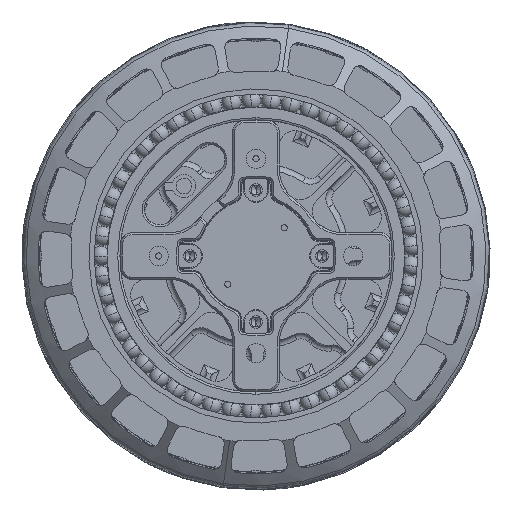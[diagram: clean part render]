
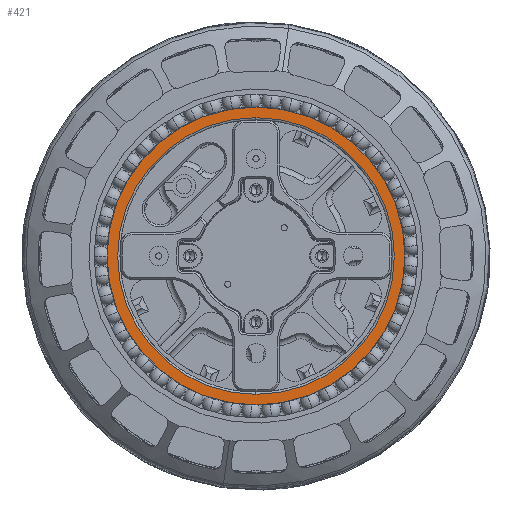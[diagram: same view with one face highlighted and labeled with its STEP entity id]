
A CAD part, left-side view. The second image highlights one B-rep face of the part: STEP entity #421.
In plain terms, the highlighted planar face has unit normal (-1, 0, 0).
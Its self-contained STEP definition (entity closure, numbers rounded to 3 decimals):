
#421 = ADVANCED_FACE ( 'NONE', ( #5302, #84231 ), #126060, .F. ) ;
#746 = EDGE_LOOP ( 'NONE', ( #85955, #77568 ) ) ;
#1106 = DIRECTION ( 'NONE',  ( -1., 0., 0. ) ) ;
#1508 = EDGE_LOOP ( 'NONE', ( #94741, #88745 ) ) ;
#3431 = DIRECTION ( 'NONE',  ( 0., 0., -1. ) ) ;
#5302 = FACE_BOUND ( 'NONE', #1508, .T. ) ;
#11206 = DIRECTION ( 'NONE',  ( 0., 0., 1. ) ) ;
#16351 = EDGE_CURVE ( 'NONE', #24419, #111868, #120298, .T. ) ;
#24419 = VERTEX_POINT ( 'NONE', #48345 ) ;
#25211 = DIRECTION ( 'NONE',  ( -1., 0., 0. ) ) ;
#38015 = VERTEX_POINT ( 'NONE', #120356 ) ;
#48345 = CARTESIAN_POINT ( 'NONE',  ( -26.036, 4.818, 42.667 ) ) ;
#53641 = AXIS2_PLACEMENT_3D ( 'NONE', #96323, #82321, #3431 ) ;
#59303 = CARTESIAN_POINT ( 'NONE',  ( -26.036, 4.818, 119.333 ) ) ;
#59715 = CARTESIAN_POINT ( 'NONE',  ( -26.036, 43.152, 81. ) ) ;
#68594 = CARTESIAN_POINT ( 'NONE',  ( -26.036, 4.818, 81. ) ) ;
#70425 = CIRCLE ( 'NONE', #53641, 35.6 ) ;
#77568 = ORIENTED_EDGE ( 'NONE', *, *, #16351, .T. ) ;
#79116 = DIRECTION ( 'NONE',  ( 0., 0., 1. ) ) ;
#82321 = DIRECTION ( 'NONE',  ( 1., 0., 0. ) ) ;
#83423 = CARTESIAN_POINT ( 'NONE',  ( -26.036, 4.818, 45.4 ) ) ;
#84231 = FACE_OUTER_BOUND ( 'NONE', #746, .T. ) ;
#85195 = AXIS2_PLACEMENT_3D ( 'NONE', #59715, #164533, #166240 ) ;
#85955 = ORIENTED_EDGE ( 'NONE', *, *, #158107, .T. ) ;
#88745 = ORIENTED_EDGE ( 'NONE', *, *, #167655, .T. ) ;
#94741 = ORIENTED_EDGE ( 'NONE', *, *, #143689, .T. ) ;
#96323 = CARTESIAN_POINT ( 'NONE',  ( -26.036, 4.818, 81. ) ) ;
#98312 = DIRECTION ( 'NONE',  ( 1., 0., 0. ) ) ;
#109756 = CARTESIAN_POINT ( 'NONE',  ( -26.036, 4.818, 81. ) ) ;
#110053 = CIRCLE ( 'NONE', #134979, 35.6 ) ;
#111868 = VERTEX_POINT ( 'NONE', #59303 ) ;
#120298 = CIRCLE ( 'NONE', #137099, 38.333 ) ;
#120356 = CARTESIAN_POINT ( 'NONE',  ( -26.036, 4.818, 116.6 ) ) ;
#126060 = PLANE ( 'NONE',  #85195 ) ;
#131096 = CARTESIAN_POINT ( 'NONE',  ( -26.036, 4.818, 81. ) ) ;
#134979 = AXIS2_PLACEMENT_3D ( 'NONE', #109756, #98312, #137590 ) ;
#137099 = AXIS2_PLACEMENT_3D ( 'NONE', #68594, #1106, #79116 ) ;
#137231 = VERTEX_POINT ( 'NONE', #83423 ) ;
#137590 = DIRECTION ( 'NONE',  ( 0., 0., -1. ) ) ;
#143689 = EDGE_CURVE ( 'NONE', #137231, #38015, #70425, .T. ) ;
#149042 = CIRCLE ( 'NONE', #165759, 38.333 ) ;
#158107 = EDGE_CURVE ( 'NONE', #111868, #24419, #149042, .T. ) ;
#164533 = DIRECTION ( 'NONE',  ( 1., 0., 0. ) ) ;
#165759 = AXIS2_PLACEMENT_3D ( 'NONE', #131096, #25211, #11206 ) ;
#166240 = DIRECTION ( 'NONE',  ( 0., 1., 0. ) ) ;
#167655 = EDGE_CURVE ( 'NONE', #38015, #137231, #110053, .T. ) ;
